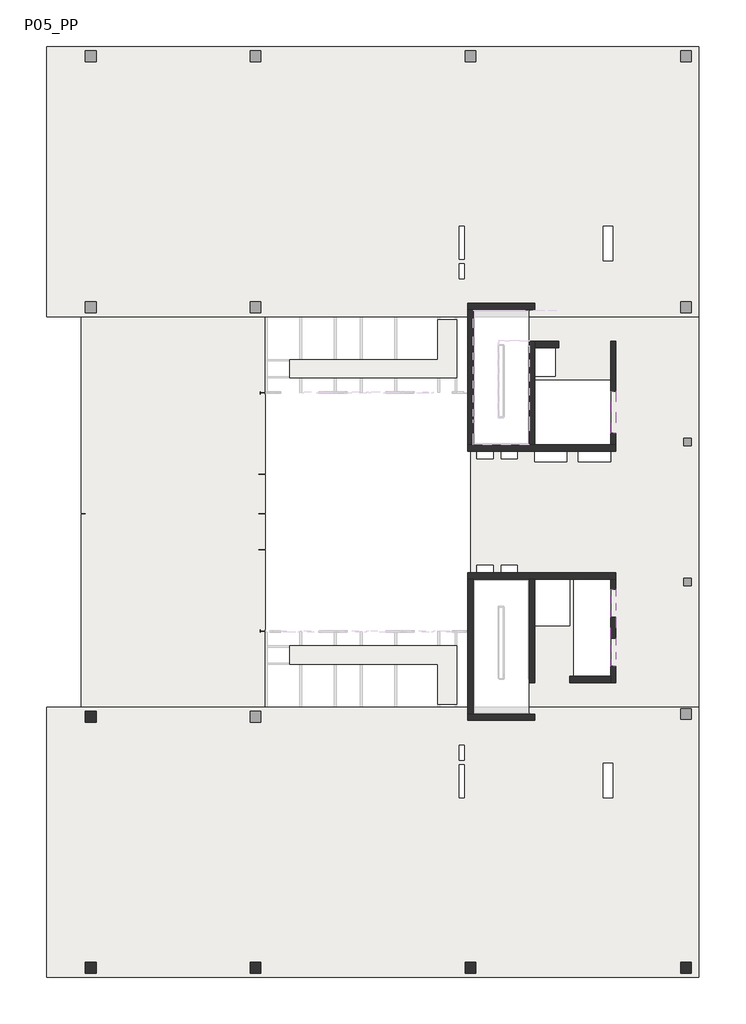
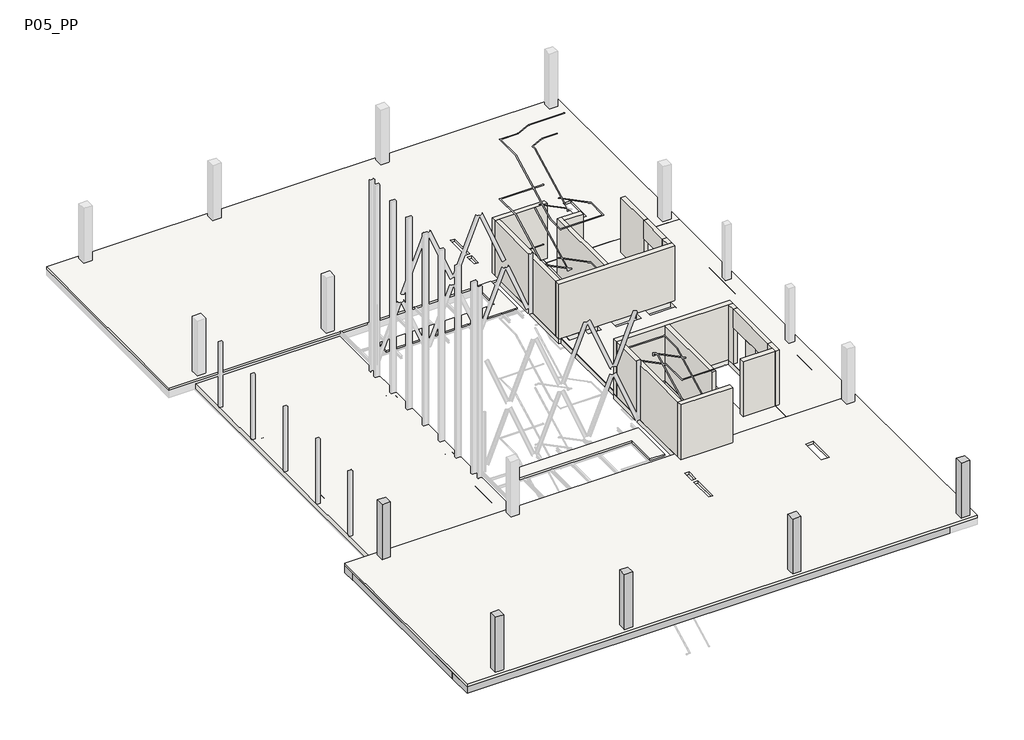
# One storey, part 1 of 7: 17 walls, 13 beams, 5 columns, 5 slabs.
"""IFC4 building model written with IfcOpenShell, lengths in millimetres."""

from ifc_helpers import new_model, si_unit, frame, origin, place, context, project, spatial, polyline, outline, extrude, faceted_brep, element, save

model = new_model("IFC4")

# Units and contexts
model_context = context("Model", 3, world=origin())
ifc_project = project(units=[si_unit("LENGTHUNIT", "METRE", prefix="MILLI")], contexts=[model_context])

# Site, building, storey
site = spatial("IfcSite", under=ifc_project)
building = spatial("IfcBuilding", under=site)
storey = spatial("IfcBuildingStorey", under=building, Name="P05_PP", Elevation=26160.0)

# Beams
placement = place(None, origin())
element("IfcBeam", 1, ObjectType="M_Concrete-Rectangular Beam : 1500 x 550mm", at=placement, inside=storey, context=model_context, shape_type="Brep", body=[
    faceted_brep([(-33190.2931093, -17110.5871866, 25610.0), (-4553.6343046, -17110.5871866, 25610.0), (-4553.6343046, -17110.5871866, 26010.0), (-33190.2931093, -17110.5871866, 26010.0), (-33190.2931093, -15610.5871866, 25610.0), (-32490.2931093, -15610.5871866, 25610.0), (-31216.2708024, -15610.5871866, 25610.0), (-30816.2708024, -15610.5871866, 25610.0), (-29549.6041367, -15610.5871866, 25610.0), (-29149.6041367, -15610.5871866, 25610.0), (-27882.9374731, -15610.5871866, 25610.0), (-27482.9374731, -15610.5871866, 25610.0), (-26216.2708089, -15610.5871866, 25610.0), (-25816.2708089, -15610.5871866, 25610.0), (-24549.6041453, -15610.5871866, 25610.0), (-24149.6041453, -15610.5871866, 25610.0), (-22882.9374805, -15610.5871866, 25610.0), (-22482.9374805, -15610.5871866, 25610.0), (-21216.2708168, -15610.5871866, 25610.0), (-20816.2708168, -15610.5871866, 25610.0), (-19549.6041539, -15610.5871866, 25610.0), (-19149.6041539, -15610.5871866, 25610.0), (-17882.9374898, -15610.5871866, 25610.0), (-17482.9374898, -15610.5871866, 25610.0), (-16216.2708252, -15610.5871866, 25610.0), (-15816.2708252, -15610.5871866, 25610.0), (-14549.604161, -15610.5871866, 25610.0), (-14149.604161, -15610.5871866, 25610.0), (-12882.9374977, -15610.5871866, 25610.0), (-12482.9374977, -15610.5871866, 25610.0), (-11216.2708336, -15610.5871866, 25610.0), (-10816.2708336, -15610.5871866, 25610.0), (-9549.6041702, -15610.5871866, 25610.0), (-9149.6041702, -15610.5871866, 25610.0), (-7882.9375051, -15610.5871866, 25610.0), (-7482.9375051, -15610.5871866, 25610.0), (-6216.2708415, -15610.5871866, 25610.0), (-5816.2708415, -15610.5871866, 25610.0), (-4553.6343046, -15610.5871866, 25610.0), (-13241.2186884, -16910.5863263, 25610.0), (-13241.2186928, -16360.5863263, 25610.0), (-13791.2186928, -16360.5863307, 25610.0), (-13791.2186884, -16910.5863307, 25610.0), (-23241.075288, -16910.6064, 25610.0), (-23241.0752906, -16410.6064, 25610.0), (-23741.0752906, -16410.6064026, 25610.0), (-23741.075288, -16910.6064026, 25610.0), (-30891.2106729, -16910.6072254, 25610.0), (-30891.2106755, -16410.6072254, 25610.0), (-31391.2106755, -16410.607228, 25610.0), (-31391.2106729, -16910.607228, 25610.0), (-33190.2931093, -15610.5871866, 26010.0), (-32490.2931093, -15610.5871866, 26010.0), (-31216.2708024, -15610.5871866, 26010.0), (-30816.2708024, -15610.5871866, 26010.0), (-29549.6041367, -15610.5871866, 26010.0), (-29149.6041367, -15610.5871866, 26010.0), (-27882.9374731, -15610.5871866, 26010.0), (-27482.9374731, -15610.5871866, 26010.0), (-26216.2708089, -15610.5871866, 26010.0), (-25816.2708089, -15610.5871866, 26010.0), (-24549.6041453, -15610.5871866, 26010.0), (-24149.6041453, -15610.5871866, 26010.0), (-22882.9374805, -15610.5871866, 26010.0), (-22482.9374805, -15610.5871866, 26010.0), (-21216.2708168, -15610.5871866, 26010.0), (-20816.2708168, -15610.5871866, 26010.0), (-19549.6041539, -15610.5871866, 26010.0), (-19149.6041539, -15610.5871866, 26010.0), (-17882.9374898, -15610.5871866, 26010.0), (-17482.9374898, -15610.5871866, 26010.0), (-16216.2708252, -15610.5871866, 26010.0), (-15816.2708252, -15610.5871866, 26010.0), (-14549.604161, -15610.5871866, 26010.0), (-14149.604161, -15610.5871866, 26010.0), (-12882.9374977, -15610.5871866, 26010.0), (-12482.9374977, -15610.5871866, 26010.0), (-11216.2708336, -15610.5871866, 26010.0), (-10816.2708336, -15610.5871866, 26010.0), (-9549.6041702, -15610.5871866, 26010.0), (-9149.6041702, -15610.5871866, 26010.0), (-7882.9375051, -15610.5871866, 26010.0), (-7482.9375051, -15610.5871866, 26010.0), (-6216.2708415, -15610.5871866, 26010.0), (-5816.2708415, -15610.5871866, 26010.0), (-4553.6343046, -15610.5871866, 26010.0), (-13241.2186884, -16910.5863263, 25860.0), (-13241.2186928, -16360.5863263, 25860.0), (-13791.2186884, -16910.5863307, 25860.0), (-13791.2186928, -16360.5863307, 25860.0), (-23241.075288, -16910.6064, 25860.0), (-23241.0752906, -16410.6064, 25860.0), (-23741.075288, -16910.6064026, 25860.0), (-23741.0752906, -16410.6064026, 25860.0), (-30891.2106729, -16910.6072254, 25860.0), (-30891.2106755, -16410.6072254, 25860.0), (-31391.2106729, -16910.607228, 25860.0), (-31391.2106755, -16410.607228, 25860.0)], [[[0, 1, 2, 3]], [[0, 4, 5, 6, 7, 8, 9, 10, 11, 12, 13, 14, 15, 16, 17, 18, 19, 20, 21, 22, 23, 24, 25, 26, 27, 28, 29, 30, 31, 32, 33, 34, 35, 36, 37, 38, 1], [39, 40, 41, 42], [43, 44, 45, 46], [47, 48, 49, 50]], [[38, 37, 36, 35, 34, 33, 32, 31, 30, 29, 28, 27, 26, 25, 24, 23, 22, 21, 20, 19, 18, 17, 16, 15, 14, 13, 12, 11, 10, 9, 8, 7, 6, 5, 4, 51, 52, 53, 54, 55, 56, 57, 58, 59, 60, 61, 62, 63, 64, 65, 66, 67, 68, 69, 70, 71, 72, 73, 74, 75, 76, 77, 78, 79, 80, 81, 82, 83, 84, 85]], [[4, 0, 3, 51]], [[1, 38, 85, 2]], [[86, 87, 40, 39]], [[88, 86, 39, 42]], [[89, 88, 42, 41]], [[87, 89, 41, 40]], [[87, 86, 88, 89]], [[90, 91, 44, 43]], [[92, 90, 43, 46]], [[93, 92, 46, 45]], [[91, 93, 45, 44]], [[91, 90, 92, 93]], [[94, 95, 48, 47]], [[96, 94, 47, 50]], [[97, 96, 50, 49]], [[95, 97, 49, 48]], [[95, 94, 96, 97]], [[3, 2, 85, 84, 83, 82, 81, 80, 79, 78, 77, 76, 75, 74, 73, 72, 71, 70, 69, 68, 67, 66, 65, 64, 63, 62, 61, 60, 59, 58, 57, 56, 55, 54, 53, 52, 51]]]),
])
element("IfcBeam", 2, ObjectType="M_Concrete-Rectangular Beam : 400 x 550mm", at=placement, inside=storey, context=model_context, shape_type="SweptSolid", body=[
    extrude(outline(polyline([(-30816.2708024, -15610.5871866), (-31216.2708024, -15610.5871866), (-31216.2708024, -5360.5857933), (-30816.2708024, -5360.5857933), (-30816.2708024, -15610.5871866)])), frame((0.0, 0.0, 25610.0), z_axis=(0.0, 0.0, 1.0), x_axis=(1.0, 0.0, 0.0)), (0.0, 0.0, 1.0), 400.0),
])
element("IfcBeam", 3, ObjectType="M_Concrete-Rectangular Beam : 400 x 550mm", at=placement, inside=storey, context=model_context, shape_type="SweptSolid", body=[
    extrude(outline(polyline([(-29149.6041367, -15610.5871866), (-29549.6041367, -15610.5871866), (-29549.6041367, -5360.5857933), (-29149.6041367, -5360.5857933), (-29149.6041367, -15610.5871866)])), frame((0.0, 0.0, 25610.0), z_axis=(0.0, 0.0, 1.0), x_axis=(1.0, 0.0, 0.0)), (0.0, 0.0, 1.0), 400.0),
])
element("IfcBeam", 4, ObjectType="M_Concrete-Rectangular Beam : 400 x 550mm", at=placement, inside=storey, context=model_context, shape_type="SweptSolid", body=[
    extrude(outline(polyline([(-27482.9374731, -15610.5871866), (-27882.9374731, -15610.5871866), (-27882.9374731, -5360.5857933), (-27482.9374731, -5360.5857933), (-27482.9374731, -15610.5871866)])), frame((0.0, 0.0, 25610.0), z_axis=(0.0, 0.0, 1.0), x_axis=(1.0, 0.0, 0.0)), (0.0, 0.0, 1.0), 400.0),
])
element("IfcBeam", 5, ObjectType="M_Concrete-Rectangular Beam : 400 x 550mm", at=placement, inside=storey, context=model_context, shape_type="SweptSolid", body=[
    extrude(outline(polyline([(-25816.2708089, -15610.5871866), (-26216.2708089, -15610.5871866), (-26216.2708089, -5360.5857933), (-25816.2708089, -5360.5857933), (-25816.2708089, -15610.5871866)])), frame((0.0, 0.0, 25610.0), z_axis=(0.0, 0.0, 1.0), x_axis=(1.0, 0.0, 0.0)), (0.0, 0.0, 1.0), 400.0),
])
element("IfcBeam", 6, ObjectType="M_Concrete-Rectangular Beam : 400 x 550mm", at=placement, inside=storey, context=model_context, shape_type="SweptSolid", body=[
    extrude(outline(polyline([(-24549.6041453, -6060.5861501), (-24149.6041453, -6060.5861501), (-24149.6041453, -15610.5871866), (-24549.6041453, -15610.5871866), (-24549.6041453, -6060.5861501)])), frame((0.0, 0.0, 25610.0), z_axis=(0.0, 0.0, 1.0), x_axis=(1.0, 0.0, 0.0)), (0.0, 0.0, 1.0), 400.0),
])
element("IfcBeam", 7, ObjectType="M_Concrete-Rectangular Beam : 400 x 550mm", at=placement, inside=storey, context=model_context, shape_type="SweptSolid", body=[
    extrude(outline(polyline([(-22882.9374805, -6060.5861501), (-22482.9374805, -6060.5861501), (-22482.9374805, -15610.5871866), (-22882.9374805, -15610.5871866), (-22882.9374805, -6060.5861501)])), frame((0.0, 0.0, 25610.0), z_axis=(0.0, 0.0, 1.0), x_axis=(1.0, 0.0, 0.0)), (0.0, 0.0, 1.0), 400.0),
])
element("IfcBeam", 8, ObjectType="M_Concrete-Rectangular Beam : 400 x 550mm", at=placement, inside=storey, context=model_context, shape_type="SweptSolid", body=[
    extrude(outline(polyline([(-21216.2708168, -6060.5861501), (-20816.2708168, -6060.5861501), (-20816.2708168, -15610.5871866), (-21216.2708168, -15610.5871866), (-21216.2708168, -6060.5861501)])), frame((0.0, 0.0, 25610.0), z_axis=(0.0, 0.0, 1.0), x_axis=(1.0, 0.0, 0.0)), (0.0, 0.0, 1.0), 400.0),
])
element("IfcBeam", 9, ObjectType="M_Concrete-Rectangular Beam : 400 x 550mm", at=placement, inside=storey, context=model_context, shape_type="SweptSolid", body=[
    extrude(outline(polyline([(-19549.6041539, -6060.5861501), (-19149.6041539, -6060.5861501), (-19149.6041539, -15610.5871866), (-19549.6041539, -15610.5871866), (-19549.6041539, -6060.5861501)])), frame((0.0, 0.0, 25610.0), z_axis=(0.0, 0.0, 1.0), x_axis=(1.0, 0.0, 0.0)), (0.0, 0.0, 1.0), 400.0),
])
element("IfcBeam", 10, ObjectType="M_Concrete-Rectangular Beam : 400 x 550mm", at=placement, inside=storey, context=model_context, shape_type="SweptSolid", body=[
    extrude(outline(polyline([(-17882.9374898, -6060.5861501), (-17482.9374898, -6060.5861501), (-17482.9374898, -15610.5871866), (-17882.9374898, -15610.5871866), (-17882.9374898, -6060.5861501)])), frame((0.0, 0.0, 25610.0), z_axis=(0.0, 0.0, 1.0), x_axis=(1.0, 0.0, 0.0)), (0.0, 0.0, 1.0), 400.0),
])
element("IfcBeam", 11, ObjectType="M_Concrete-Rectangular Beam : 400 x 550mm", at=placement, inside=storey, context=model_context, shape_type="SweptSolid", body=[
    extrude(outline(polyline([(-16216.2708252, -6060.5861501), (-15816.2708252, -6060.5861501), (-15816.2708252, -15610.5871866), (-16216.2708252, -15610.5871866), (-16216.2708252, -6060.5861501)])), frame((0.0, 0.0, 25610.0), z_axis=(0.0, 0.0, 1.0), x_axis=(1.0, 0.0, 0.0)), (0.0, 0.0, 1.0), 400.0),
])
element("IfcBeam", 12, ObjectType="M_Concrete-Rectangular Beam : 700 x 550mm", at=placement, inside=storey, context=model_context, shape_type="SweptSolid", body=[
    extrude(outline(polyline([(-32490.2931093, -15610.5871866), (-33190.2931093, -15610.5871866), (-33190.2931093, -5360.5857933), (-32490.2931093, -5360.5857933), (-32490.2931093, -15610.5871866)])), frame((0.0, 0.0, 25610.0), z_axis=(0.0, 0.0, 1.0), x_axis=(1.0, 0.0, 0.0)), (0.0, 0.0, 1.0), 400.0),
])
element("IfcBeam", 13, ObjectType="M_Concrete-Rectangular Beam : 800 x 600mm", at=placement, inside=storey, context=model_context, shape_type="Brep", body=[
    faceted_brep([(-23741.1819308, -5360.5857933, 25610.0), (-24549.6041453, -5360.5857933, 25610.0), (-24549.6041453, -5360.5857933, 26010.0), (-25816.2708089, -5360.5857933, 26010.0), (-26216.2708089, -5360.5857933, 26010.0), (-27482.9374731, -5360.5857933, 26010.0), (-27882.9374731, -5360.5857933, 26010.0), (-29149.6041367, -5360.5857933, 26010.0), (-29549.6041367, -5360.5857933, 26010.0), (-30816.2708024, -5360.5857933, 26010.0), (-31216.2708024, -5360.5857933, 26010.0), (-32490.2931093, -5360.5857933, 26010.0), (-33190.2931093, -5360.5857933, 26010.0), (-33190.2931093, -5360.5857933, 25610.0), (-33190.2931093, -5360.5857933, 25560.0), (-23741.1819308, -5360.5857933, 25560.0), (-33190.2931093, -4560.5857933, 25560.0), (-23741.1819308, -4560.5857933, 25560.0), (-30891.2598275, -5260.6067328, 25560.0), (-30891.2598282, -4760.6067328, 25560.0), (-31391.2598282, -4760.6067335, 25560.0), (-31391.2598275, -5260.6067335, 25560.0), (-23741.1819308, -4560.5857933, 25610.0), (-33190.2931093, -4560.5857933, 26010.0), (-24549.6041453, -4560.5857933, 26010.0), (-24549.6041453, -4560.5857933, 25610.0), (-23741.1819308, -5260.6067305, 25610.0), (-23741.1819308, -4760.6067305, 25610.0), (-30891.2598275, -5260.6067328, 25860.0), (-30891.2598282, -4760.6067328, 25860.0), (-31391.2598275, -5260.6067335, 25860.0), (-31391.2598282, -4760.6067335, 25860.0)], [[[0, 1, 2, 3, 4, 5, 6, 7, 8, 9, 10, 11, 12, 13, 14, 15]], [[14, 16, 17, 15], [18, 19, 20, 21]], [[22, 17, 16, 23, 24, 25]], [[16, 14, 13, 12, 23]], [[25, 1, 0, 26, 27, 22]], [[28, 29, 19, 18]], [[30, 28, 18, 21]], [[31, 30, 21, 20]], [[29, 28, 30, 31]], [[1, 25, 24, 2]], [[17, 22, 27, 26, 0, 15]], [[29, 31, 20, 19]], [[12, 11, 10, 9, 8, 7, 6, 5, 4, 3, 2, 24, 23]]]),
])

# Columns
element("IfcColumn", 14, ObjectType="Concrete-Rectangular-Column : Pilar_Rectangular-Formigo-500x500", at=placement, inside=storey, context=model_context, shape_type="Brep", body=[
    faceted_brep([(-3266.3636507, -16410.4373098, 26160.0), (-3266.3636558, -16910.4373098, 26160.0), (-3766.3636558, -16910.4373046, 26160.0), (-3766.3636507, -16410.4373046, 26160.0), (-3266.3636507, -16410.4373098, 29610.0), (-3266.3636558, -16910.4373098, 29610.0), (-3266.3636558, -16910.4373098, 29360.0), (-3266.3636507, -16410.4373098, 29360.0), (-3766.3636558, -16910.4373046, 29610.0), (-3766.3636558, -16910.4373046, 29360.0), (-3766.3636507, -16410.4373046, 29610.0), (-3766.3636507, -16410.4373046, 29360.0)], [[[0, 1, 2, 3]], [[4, 5, 6, 1, 0, 7]], [[5, 8, 9, 2, 1, 6]], [[8, 10, 11, 3, 2, 9]], [[10, 4, 7, 0, 3, 11]], [[4, 10, 8, 5]]]),
])
element("IfcColumn", 15, ObjectType="Concrete-Rectangular-Column : Pilar_Rectangular-Formigo-500x500", at=placement, inside=storey, context=model_context, shape_type="Brep", body=[
    faceted_brep([(-13265.9144455, -16410.4373111, 26160.0), (-13265.9144385, -16910.4373111, 26160.0), (-13765.9144385, -16910.4373181, 26160.0), (-13765.9144455, -16410.4373181, 26160.0), (-13265.9144455, -16410.4373111, 29610.0), (-13265.9144385, -16910.4373111, 29610.0), (-13265.9144385, -16910.4373111, 29360.0), (-13265.9144455, -16410.4373111, 29360.0), (-13765.9144385, -16910.4373181, 29610.0), (-13765.9144385, -16910.4373181, 29360.0), (-13765.9144455, -16410.4373181, 29610.0), (-13765.9144455, -16410.4373181, 29360.0)], [[[0, 1, 2, 3]], [[4, 5, 6, 1, 0, 7]], [[5, 8, 9, 2, 1, 6]], [[8, 10, 11, 3, 2, 9]], [[10, 4, 7, 0, 3, 11]], [[4, 10, 8, 5]]]),
])
element("IfcColumn", 16, ObjectType="Concrete-Rectangular-Column : Pilar_Rectangular-Formigo-500x500", at=placement, inside=storey, context=model_context, shape_type="Brep", body=[
    faceted_brep([(-23240.7710406, -16410.4370227, 26160.0), (-23240.7710375, -16910.4370227, 26160.0), (-23740.7710375, -16910.4370258, 26160.0), (-23740.7710406, -16410.4370258, 26160.0), (-23240.7710406, -16410.4370227, 29610.0), (-23240.7710375, -16910.4370227, 29610.0), (-23240.7710375, -16910.4370227, 29360.0), (-23240.7710406, -16410.4370227, 29360.0), (-23740.7710375, -16910.4370258, 29610.0), (-23740.7710375, -16910.4370258, 29360.0), (-23740.7710406, -16410.4370258, 29610.0), (-23740.7710406, -16410.4370258, 29360.0)], [[[0, 1, 2, 3]], [[4, 5, 6, 1, 0, 7]], [[5, 8, 9, 2, 1, 6]], [[8, 10, 11, 3, 2, 9]], [[10, 4, 7, 0, 3, 11]], [[4, 10, 8, 5]]]),
])
element("IfcColumn", 17, ObjectType="Concrete-Rectangular-Column : Pilar_Rectangular-Formigo-500x500", at=placement, inside=storey, context=model_context, shape_type="Brep", body=[
    faceted_brep([(-30890.9064256, -16410.4378471, 26160.0), (-30890.9064219, -16910.4378471, 26160.0), (-31390.9064219, -16910.4378508, 26160.0), (-31390.9064256, -16410.4378508, 26160.0), (-30890.9064256, -16410.4378471, 29610.0), (-30890.9064219, -16910.4378471, 29610.0), (-30890.9064219, -16910.4378471, 29360.0), (-30890.9064256, -16410.4378471, 29360.0), (-31390.9064219, -16910.4378508, 29610.0), (-31390.9064219, -16910.4378508, 29360.0), (-31390.9064256, -16410.4378508, 29610.0), (-31390.9064256, -16410.4378508, 29360.0)], [[[0, 1, 2, 3]], [[4, 5, 6, 1, 0, 7]], [[5, 8, 9, 2, 1, 6]], [[8, 10, 11, 3, 2, 9]], [[10, 4, 7, 0, 3, 11]], [[4, 10, 8, 5]]]),
])
element("IfcColumn", 18, ObjectType="Concrete-Rectangular-Column : Pilar_Rectangular-Formigo-500x500", at=placement, inside=storey, context=model_context, shape_type="Brep", body=[
    faceted_brep([(-30890.9555797, -4760.4373566, 26160.0), (-30890.9555801, -5260.4373566, 26160.0), (-31390.9555801, -5260.4373562, 26160.0), (-31390.9555797, -4760.4373562, 26160.0), (-30890.9555797, -4760.4373566, 29610.0), (-30890.9555801, -5260.4373566, 29610.0), (-30890.9555801, -5260.4373566, 29360.0), (-30890.9555797, -4760.4373566, 29360.0), (-31390.9555801, -5260.4373562, 29610.0), (-31390.9555801, -5260.4373562, 29360.0), (-31390.9555797, -4760.4373562, 29610.0), (-31390.9555797, -4760.4373562, 29360.0)], [[[0, 1, 2, 3]], [[4, 5, 6, 1, 0, 7]], [[5, 8, 9, 2, 1, 6]], [[8, 10, 11, 3, 2, 9]], [[10, 4, 7, 0, 3, 11]], [[4, 10, 8, 5]]]),
])

# Slabs
element("IfcSlab", 19, ObjectType="Forjat_Llosa-Formigo-300", at=placement, inside=storey, context=model_context, shape_type="SweptSolid", body=[
    extrude(outline(polyline([(-2913.3917281, 13539.4138015), (-2913.3917281, -4560.5857971), (-10790.2146087, -4560.5857971), (-10790.2146087, 1364.8960692), (-13390.3216429, 1364.8960692), (-13390.3216429, -4560.5857971), (-13640.3216429, -4560.5857971), (-13640.3216429, 1664.8960692), (-13515.3216429, 1664.8960692), (-13515.3216412, 7314.8960673), (-13640.3216429, 7314.8960673), (-13640.3216429, 13539.4138015), (-13390.3216429, 13539.4138015), (-13390.3216429, 7614.8960673), (-10790.2146087, 7614.8960673), (-10790.2146087, 13539.4138015), (-2913.3917281, 13539.4138015)]), holes=[polyline([(-8915.3273673, -795.1004405), (-8915.3273673, 1364.8960692), (-10540.2146087, 1364.8960692), (-10540.2146087, -795.1004405), (-8915.3273673, -795.1004405)]), polyline([(-7015.32737, -3135.1012912), (-7015.32737, 1364.8960692), (-8715.3273692, 1364.8960692), (-8715.3273692, -3135.1012912), (-7015.32737, -3135.1012912)]), polyline([(-7015.3216444, 10594.8839421), (-10540.2146087, 10594.8839421), (-10540.2146087, 7614.8960673), (-7015.3216444, 7614.8960673), (-7015.3216444, 10594.8839421)]), polyline([(-9575.3241515, 12114.8934277), (-10540.2146087, 12114.8934277), (-10540.2146087, 10794.8973525), (-9575.3241515, 10794.8973525), (-9575.3241515, 12114.8934277)]), polyline([(-12465.3183759, 6964.8891848), (-12465.3183704, 7314.8960673), (-13215.3183723, 7314.8960673), (-13215.3183768, 6964.8891841), (-12465.3183759, 6964.8891848)]), polyline([(-12090.3183694, 6964.8891882), (-11340.3183722, 6964.8891882), (-11340.3183685, 7314.8960673), (-12090.3183704, 7314.8960673), (-12090.3183694, 6964.8891882)]), polyline([(-12465.317339, 2014.8973051), (-13215.3183744, 2014.8973051), (-13215.3183744, 1664.8968204), (-12465.317339, 1664.8968204), (-12465.317339, 2014.8973051)]), polyline([(-11340.3173363, 2014.8973051), (-12090.3183821, 2014.8973051), (-12090.3183821, 1664.8968204), (-11340.3173363, 1664.8968204), (-11340.3173363, 2014.8973051)]), polyline([(-9040.3216312, 7314.8929869), (-10540.3361965, 7314.8929869), (-10540.3361965, 6814.888132), (-9040.3216312, 6814.888132), (-9040.3216312, 7314.8929869)]), polyline([(-7015.3241584, 7314.892988), (-8515.3387237, 7314.892988), (-8515.3387237, 6814.888133), (-7015.3241584, 6814.888133), (-7015.3241584, 7314.892988)])]), frame((0.0, 0.0, 25860.0), z_axis=(0.0, 0.0, 1.0), x_axis=(1.0, 0.0, 0.0)), (0.0, 0.0, 1.0), 300.0),
])
element("IfcSlab", 20, ObjectType="Forjat_Llosa-Formigo-300", at=placement, inside=storey, context=model_context, shape_type="SweptSolid", body=[
    extrude(outline(polyline([(-31591.2255813, -4560.586045), (-31591.2256169, 13539.4138221), (-23041.1835009, 13539.4138389), (-23041.1835037, -4560.5860282), (-31591.2255813, -4560.586045)])), frame((0.0, 0.0, 25560.0), z_axis=(0.0, 0.0, 1.0), x_axis=(1.0, 0.0, 0.0)), (0.0, 0.0, 1.0), 300.0),
])
element("IfcSlab", 21, ObjectType="Forjat_Llosa-Formigo-150", at=placement, inside=storey, context=model_context, shape_type="Brep", body=[
    faceted_brep([(-33190.2931069, 13539.4137942, 26010.0), (-33190.2931069, 26089.4138015, 26010.0), (-2913.6636999, 26089.4138015, 26010.0), (-2913.6636999, 13539.4137942, 26010.0), (-10790.2146087, 13539.4137942, 26010.0), (-10790.2146087, 13864.8960677, 26010.0), (-13390.3216429, 13864.8960677, 26010.0), (-13390.3216429, 13539.4137942, 26010.0), (-23041.1834977, 13539.4137942, 26010.0), (-7355.3596943, 17755.5003122, 26010.0), (-7355.3596935, 16143.9281337, 26010.0), (-6905.3202486, 16143.9281335, 26010.0), (-6905.3202496, 17755.5003116, 26010.0), (-13795.316559, 16015.6292353, 26010.0), (-14045.3165543, 16015.6292358, 26010.0), (-14045.3165545, 15315.6292377, 26010.0), (-13795.3165589, 15315.629238, 26010.0), (-13795.3165592, 17754.0479176, 26010.0), (-14045.3165588, 17754.0479187, 26010.0), (-14045.3165585, 16215.6292373, 26010.0), (-13795.316559, 16215.629237, 26010.0), (-33190.2931069, 26089.4138015, 26160.0), (-33190.2931069, 13539.4137942, 26160.0), (-13390.3216429, 13539.4137942, 26160.0), (-13390.3216429, 13864.8960677, 26160.0), (-10790.2146087, 13864.8960677, 26160.0), (-10790.2146087, 13539.4137942, 26160.0), (-7015.3241677, 13539.4137942, 26160.0), (-6715.3241677, 13539.4137942, 26160.0), (-3763.6343046, 13539.4137942, 26160.0), (-2913.6636999, 13539.4137942, 26160.0), (-2913.6636999, 26089.4138015, 26160.0), (-7355.3596935, 16143.9281337, 26160.0), (-7355.3596943, 17755.5003122, 26160.0), (-6905.3202496, 17755.5003116, 26160.0), (-6905.3202486, 16143.9281335, 26160.0), (-14045.3165543, 16015.6292358, 26160.0), (-13795.316559, 16015.6292353, 26160.0), (-13795.3165589, 15315.629238, 26160.0), (-14045.3165545, 15315.6292377, 26160.0), (-14045.3165588, 17754.0479187, 26160.0), (-13795.3165592, 17754.0479176, 26160.0), (-13795.316559, 16215.629237, 26160.0), (-14045.3165585, 16215.6292373, 26160.0)], [[[0, 1, 2, 3, 4, 5, 6, 7, 8], [9, 10, 11, 12], [13, 14, 15, 16], [17, 18, 19, 20]], [[21, 22, 23, 24, 25, 26, 27, 28, 29, 30, 31], [32, 33, 34, 35], [36, 37, 38, 39], [40, 41, 42, 43]], [[22, 0, 8, 7, 23]], [[3, 30, 29, 28, 27, 26, 4]], [[1, 0, 22, 21]], [[2, 1, 21, 31]], [[3, 2, 31, 30]], [[5, 25, 24, 6]], [[6, 24, 23, 7]], [[25, 5, 4, 26]], [[9, 33, 32, 10]], [[10, 32, 35, 11]], [[11, 35, 34, 12]], [[33, 9, 12, 34]], [[13, 37, 36, 14]], [[14, 36, 39, 15]], [[15, 39, 38, 16]], [[37, 13, 16, 38]], [[17, 41, 40, 18]], [[18, 40, 43, 19]], [[19, 43, 42, 20]], [[41, 17, 20, 42]]]),
    faceted_brep([(-33190.2931093, -17110.5868311, 26010.0), (-33190.2931093, -15610.5871866, 26010.0), (-33190.2931093, -5360.5857933, 26010.0), (-33190.2931093, -4560.5857933, 26010.0), (-24549.6041453, -4560.5857933, 26010.0), (-13390.3216429, -4560.5857933, 26010.0), (-13390.3216429, -4885.1039312, 26010.0), (-10790.2146087, -4885.1039312, 26010.0), (-10790.2146087, -4560.5857933, 26010.0), (-2913.6636999, -4560.5857933, 26010.0), (-2913.6636999, -17110.5868311, 26010.0), (-7355.3596943, -8775.7081757, 26010.0), (-6905.3202496, -8775.7081751, 26010.0), (-6905.3202486, -7164.135997, 26010.0), (-7355.3596935, -7164.1359972, 26010.0), (-13795.316559, -7035.8370988, 26010.0), (-13795.3165589, -6335.8371015, 26010.0), (-14045.3165545, -6335.8371012, 26010.0), (-14045.3165543, -7035.8370994, 26010.0), (-13795.3165592, -8774.2557811, 26010.0), (-13795.316559, -7235.8371005, 26010.0), (-14045.3165585, -7235.8371008, 26010.0), (-14045.3165588, -8774.2557822, 26010.0), (-33190.2931093, -4560.5857933, 26160.0), (-33190.2931093, -17110.5868311, 26160.0), (-2913.6636999, -17110.5868311, 26160.0), (-2913.6636999, -4560.5857933, 26160.0), (-3763.6343046, -4560.5857933, 26160.0), (-6715.3241677, -4560.5857933, 26160.0), (-7015.3241677, -4560.5857933, 26160.0), (-10790.2146087, -4560.5857933, 26160.0), (-10790.2146087, -4885.1039312, 26160.0), (-13390.3216429, -4885.1039312, 26160.0), (-13390.3216429, -4560.5857933, 26160.0), (-6905.3202496, -8775.7081751, 26160.0), (-7355.3596943, -8775.7081757, 26160.0), (-7355.3596935, -7164.1359972, 26160.0), (-6905.3202486, -7164.135997, 26160.0), (-13795.3165589, -6335.8371015, 26160.0), (-13795.316559, -7035.8370988, 26160.0), (-14045.3165543, -7035.8370994, 26160.0), (-14045.3165545, -6335.8371012, 26160.0), (-13795.316559, -7235.8371005, 26160.0), (-13795.3165592, -8774.2557811, 26160.0), (-14045.3165588, -8774.2557822, 26160.0), (-14045.3165585, -7235.8371008, 26160.0)], [[[0, 1, 2, 3, 4, 5, 6, 7, 8, 9, 10], [11, 12, 13, 14], [15, 16, 17, 18], [19, 20, 21, 22]], [[23, 24, 25, 26, 27, 28, 29, 30, 31, 32, 33], [34, 35, 36, 37], [38, 39, 40, 41], [42, 43, 44, 45]], [[3, 2, 1, 0, 24, 23]], [[3, 23, 33, 5, 4]], [[26, 9, 8, 30, 29, 28, 27]], [[10, 9, 26, 25]], [[0, 10, 25, 24]], [[7, 31, 30, 8]], [[32, 6, 5, 33]], [[31, 7, 6, 32]], [[11, 35, 34, 12]], [[12, 34, 37, 13]], [[13, 37, 36, 14]], [[35, 11, 14, 36]], [[15, 39, 38, 16]], [[16, 38, 41, 17]], [[17, 41, 40, 18]], [[39, 15, 18, 40]], [[19, 43, 42, 20]], [[20, 42, 45, 21]], [[21, 45, 44, 22]], [[43, 19, 22, 44]]]),
])
element("IfcSlab", 22, ObjectType="Forjat_Llosa-Relliga-100", at=placement, inside=storey, context=model_context, shape_type="SweptSolid", body=[
    extrude(outline(polyline([(-21915.4459309, -2583.0874625), (-21915.4459314, -1728.0871839), (-14149.4459331, -1728.0871839), (-14149.4459331, -4439.621344), (-15031.4459326, -4439.621344), (-15031.4459326, -2583.0874625), (-21915.4459309, -2583.0874625)])), frame((0.0, 0.0, 26160.0), z_axis=(0.0, 0.0, 1.0), x_axis=(1.0, 0.0, 0.0)), (0.0, 0.0, 1.0), 100.0),
])
element("IfcSlab", 23, ObjectType="Forjat_Llosa-Relliga-100", at=placement, inside=storey, context=model_context, shape_type="SweptSolid", body=[
    extrude(outline(polyline([(-21915.4459309, 11562.8793206), (-15031.4459326, 11562.8793206), (-15031.4459326, 13419.4132021), (-14149.4459331, 13419.4132021), (-14149.4459331, 10707.879042), (-21915.4459314, 10707.879042), (-21915.4459309, 11562.8793206)])), frame((0.0, 0.0, 26160.0), z_axis=(0.0, 0.0, 1.0), x_axis=(1.0, 0.0, 0.0)), (0.0, 0.0, 1.0), 100.0),
])

# Walls
element("IfcWall", 24, ObjectType="0_Muro Concreto_250", at=placement, inside=storey, context=model_context, shape_type="Brep", body=[
    faceted_brep([(-13640.3216429, 13864.8960687, 26160.0), (-13640.3216429, 7614.8960673, 26160.0), (-13640.3216429, 7614.8960673, 29609.9777344), (-13640.3216429, 13539.4134441, 29609.9777344), (-13640.3216429, 13864.8960687, 29609.9777344), (-13390.3216429, 13864.8960687, 26160.0), (-13390.3216429, 13864.8960687, 29360.0), (-13390.3216429, 13864.8960687, 29609.9777344), (-13390.3216429, 13539.4134441, 29609.9777344), (-13390.3216429, 7614.8960673, 29609.9777344), (-13390.3216429, 7614.8960673, 26160.0)], [[[0, 1, 2, 3, 4]], [[5, 6, 7, 8, 9, 10]], [[1, 0, 5, 10]], [[4, 3, 2, 9, 8, 7]], [[0, 4, 7, 6, 5]], [[2, 1, 10, 9]]]),
])
element("IfcWall", 25, ObjectType="0_Muro Concreto_250", at=placement, inside=storey, context=model_context, shape_type="Brep", body=[
    faceted_brep([(-10790.2146087, 12414.8934136, 26160.0), (-10790.2146087, 7614.8960673, 26160.0), (-10790.2146087, 7614.8960673, 29609.9777344), (-10790.2146087, 12414.8934136, 29609.9777344), (-10540.2146087, 12414.8934136, 26160.0), (-10540.2146087, 12414.8934136, 29609.9777344), (-10540.2146087, 12114.8934136, 29609.9777344), (-10540.2146087, 7614.8960673, 29609.9777344), (-10540.2146087, 7614.8960673, 26160.0), (-10540.2146087, 12114.8934136, 26160.0)], [[[0, 1, 2, 3]], [[4, 5, 6, 7, 8, 9]], [[1, 0, 4, 9, 8]], [[3, 2, 7, 6, 5]], [[0, 3, 5, 4]], [[2, 1, 8, 7]]]),
])
element("IfcWall", 26, ObjectType="0_Muro Concreto_250", at=placement, inside=storey, context=model_context, shape_type="Brep", body=[
    faceted_brep([(-13390.3216429, -4885.1039323, 26160.0), (-13390.3216429, 1364.8960692, 26160.0), (-13390.3216429, 1364.8960692, 29609.9777344), (-13390.3216429, -4560.5861501, 29609.9777344), (-13390.3216429, -4885.1039323, 29609.9777344), (-13390.3216429, -4885.1039323, 29360.0), (-13640.3216429, -4885.1039323, 26160.0), (-13640.3216429, -4885.1039323, 29609.9777344), (-13640.3216429, -4560.5861501, 29609.9777344), (-13640.3216429, 1364.8960692, 29609.9777344), (-13640.3216429, 1364.8960692, 26160.0)], [[[0, 1, 2, 3, 4, 5]], [[6, 7, 8, 9, 10]], [[1, 0, 6, 10]], [[4, 3, 2, 9, 8, 7]], [[0, 5, 4, 7, 6]], [[2, 1, 10, 9]]]),
])
element("IfcWall", 27, ObjectType="0_Muro Concreto_250", at=placement, inside=storey, context=model_context, shape_type="SweptSolid", body=[
    extrude(outline(polyline([(-10540.2146087, 1364.8960692), (-10540.2146087, -3435.1012772), (-10790.2146087, -3435.1012772), (-10790.2146087, 1364.8960692), (-10540.2146087, 1364.8960692)])), frame((0.0, 0.0, 26160.0), z_axis=(0.0, 0.0, 1.0), x_axis=(1.0, 0.0, 0.0)), (0.0, 0.0, 1.0), 3449.9777344),
])
element("IfcWall", 28, ObjectType="0_Muro Concreto_250", at=placement, inside=storey, context=model_context, shape_type="Brep", body=[
    faceted_brep([(-7015.3215886, 12414.8934351, 26160.0), (-7015.3215909, 10084.2914836, 26160.0), (-7015.3215909, 10084.2914836, 28460.0), (-7015.3215909, 10084.2914836, 29609.9777344), (-7015.3215886, 12414.8934351, 29609.9777344), (-6765.3215886, 12414.8934349, 26160.0), (-6765.3215886, 12414.8934349, 29609.9777344), (-6765.3215909, 10084.2914833, 29609.9777344), (-6765.3215909, 10084.2914833, 28460.0), (-6765.3215909, 10084.2914833, 26160.0)], [[[0, 1, 2, 3, 4]], [[5, 6, 7, 8, 9]], [[1, 0, 5, 9]], [[3, 2, 1, 9, 8, 7]], [[4, 3, 7, 6]], [[0, 4, 6, 5]]]),
])
element("IfcWall", 29, ObjectType="0_Muro Concreto_250", at=placement, inside=storey, context=model_context, shape_type="SweptSolid", body=[
    extrude(outline(polyline([(-7015.3216444, 7614.8960673), (-7015.3216444, 8144.2911718), (-6765.3216444, 8144.2911718), (-6765.3216444, 7614.8960673), (-7015.3216444, 7614.8960673)])), frame((0.0, 0.0, 26160.0), z_axis=(0.0, 0.0, 1.0), x_axis=(1.0, 0.0, 0.0)), (0.0, 0.0, 1.0), 3449.9777344),
])
element("IfcWall", 30, ObjectType="0_Muro Concreto_250", at=placement, inside=storey, context=model_context, shape_type="SweptSolid", body=[
    extrude(outline(polyline([(-6765.3247837, -405.0894087), (-6765.3247837, -1365.1031796), (-7015.3247837, -1365.1031796), (-7015.3247837, -405.0894087), (-6765.3247837, -405.0894087)])), frame((0.0, 0.0, 26160.0), z_axis=(0.0, 0.0, 1.0), x_axis=(1.0, 0.0, 0.0)), (0.0, 0.0, 1.0), 2300.0),
])
element("IfcWall", 31, ObjectType="0_Muro Concreto_250", at=placement, inside=storey, context=model_context, shape_type="SweptSolid", body=[
    extrude(outline(polyline([(-6765.3216444, 1364.8960692), (-6765.3247835, 894.9105912), (-7015.3247835, 894.912261), (-7015.3216444, 1364.897739), (-6765.3216444, 1364.8960692)])), frame((0.0, 0.0, 26160.0), z_axis=(0.0, 0.0, 1.0), x_axis=(1.0, 0.0, 0.0)), (0.0, 0.0, 1.0), 3449.9777344),
])
element("IfcWall", 32, ObjectType="0_Muro Concreto_250", at=placement, inside=storey, context=model_context, shape_type="Brep", body=[
    faceted_brep([(-6765.3247845, -3435.1012772, 26160.0), (-6765.3247845, -2665.1031808, 26160.0), (-6765.3247845, -2665.1031808, 28460.0), (-6765.3247845, -2665.1031808, 29609.9777344), (-6765.3247845, -3435.1012772, 29609.9777344), (-7015.3247845, -3435.1012772, 26160.0), (-7015.3247845, -3435.1012772, 29609.9777344), (-7015.3247845, -3135.1012772, 29609.9777344), (-7015.3247845, -2665.1031808, 29609.9777344), (-7015.3247845, -2665.1031808, 28460.0), (-7015.3247845, -2665.1031808, 26160.0), (-7015.3247845, -3135.1012772, 26160.0)], [[[0, 1, 2, 3, 4]], [[5, 6, 7, 8, 9, 10, 11]], [[1, 0, 5, 11, 10]], [[3, 2, 1, 10, 9, 8]], [[4, 3, 8, 7, 6]], [[0, 4, 6, 5]]]),
])
element("IfcWall", 33, ObjectType="0_Muro Concreto_250", at=placement, inside=storey, context=model_context, shape_type="Brep", body=[
    faceted_brep([(-6765.3247835, -2665.1031808, 28460.0), (-6765.3247835, -1365.1031796, 28460.0), (-6765.3247835, -405.0894087, 28460.0), (-6765.3247835, 894.9114261, 28460.0), (-6765.3247835, 894.9114261, 29610.0), (-6765.3247835, -2665.1031808, 29610.0), (-7015.3247835, -2665.1031808, 28460.0), (-7015.3247835, -2665.1031808, 29610.0), (-7015.3247835, 894.9114261, 29610.0), (-7015.3247835, 894.9114261, 28460.0), (-7015.3247835, -405.0894087, 28460.0), (-7015.3247835, -1365.1031796, 28460.0)], [[[0, 1, 2, 3, 4, 5]], [[6, 7, 8, 9, 10, 11]], [[3, 2, 1, 0, 6, 11, 10, 9]], [[4, 3, 9, 8]], [[5, 4, 8, 7]], [[0, 5, 7, 6]]]),
])
element("IfcWall", 34, ObjectType="0_Muro Concreto_250", at=placement, inside=storey, context=model_context, shape_type="SweptSolid", body=[
    extrude(outline(polyline([(-7015.3216444, 8144.2911719), (-7015.3216444, 10084.2914835), (-6765.3216444, 10084.2914835), (-6765.3216444, 8144.2911719), (-7015.3216444, 8144.2911719)])), frame((0.0, 0.0, 28460.0), z_axis=(0.0, 0.0, 1.0), x_axis=(1.0, 0.0, 0.0)), (0.0, 0.0, 1.0), 1150.0),
])
element("IfcWall", 35, ObjectType="0_Muro Concreto_300", at=placement, inside=storey, context=model_context, shape_type="Brep", body=[
    faceted_brep([(-6768.0437821, 7614.8960673, 26160.0), (-10540.2146087, 7614.8960673, 26160.0), (-10790.2146087, 7614.8960673, 26160.0), (-13390.3216429, 7614.8960673, 26160.0), (-13640.3216429, 7614.8960673, 26160.0), (-13640.3216429, 7614.8960673, 29609.9777344), (-13390.3216429, 7614.8960673, 29609.9777344), (-10790.2146087, 7614.8960673, 29609.9777344), (-10540.2146087, 7614.8960673, 29609.9777344), (-6768.0437821, 7614.8960673, 29609.9777344), (-6768.0437821, 7314.8960673, 26160.0), (-6768.0437821, 7314.8960673, 29609.9777344), (-13640.3216429, 7314.8960673, 29609.9777344), (-13640.3216429, 7314.8960673, 26160.0)], [[[0, 1, 2, 3, 4, 5, 6, 7, 8, 9]], [[10, 11, 12, 13]], [[4, 3, 2, 1, 0, 10, 13]], [[9, 8, 7, 6, 5, 12, 11]], [[0, 9, 11, 10]], [[5, 4, 13, 12]]]),
])
element("IfcWall", 36, ObjectType="0_Muro Concreto_300", at=placement, inside=storey, context=model_context, shape_type="Brep", body=[
    faceted_brep([(-10540.3248355, 14164.8960687, 26160.0), (-13640.3216429, 14164.8960687, 26160.0), (-13640.3216429, 14164.8960687, 29360.0), (-13640.3216429, 14164.8960687, 29609.9777344), (-10540.3248355, 14164.8960687, 29609.9777344), (-10540.3248355, 14164.8960687, 29360.0), (-10540.3248355, 13864.8960687, 26160.0), (-10540.3248355, 13864.8960687, 29360.0), (-10540.3248355, 13864.8960687, 29609.9777344), (-13390.3216429, 13864.8960687, 29609.9777344), (-13640.3216429, 13864.8960687, 29609.9777344), (-13640.3216429, 13864.8960687, 26160.0), (-13390.3216429, 13864.8960687, 26160.0)], [[[0, 1, 2, 3, 4, 5]], [[6, 7, 8, 9, 10, 11, 12]], [[1, 0, 6, 12, 11]], [[4, 3, 10, 9, 8]], [[0, 5, 4, 8, 7, 6]], [[3, 2, 1, 11, 10]]]),
])
element("IfcWall", 37, ObjectType="0_Muro Concreto_300", at=placement, inside=storey, context=model_context, shape_type="SweptSolid", body=[
    extrude(outline(polyline([(-9415.5635412, 12114.8934136), (-10540.2146087, 12114.8934136), (-10540.2146087, 12414.8934136), (-9415.5635412, 12414.8934136), (-9415.5635412, 12114.8934136)])), frame((0.0, 0.0, 26160.0), z_axis=(0.0, 0.0, 1.0), x_axis=(1.0, 0.0, 0.0)), (0.0, 0.0, 1.0), 3449.9777344),
])
element("IfcWall", 38, ObjectType="0_Muro Concreto_300", at=placement, inside=storey, context=model_context, shape_type="Brep", body=[
    faceted_brep([(-6768.0437821, 1664.8960692, 26160.0), (-13640.3216429, 1664.8960692, 26160.0), (-13640.3216429, 1664.8960692, 29609.9777344), (-6768.0437821, 1664.8960692, 29609.9777344), (-6768.0437821, 1364.8960692, 26160.0), (-6768.0437821, 1364.8960692, 29609.9777344), (-10540.2146087, 1364.8960692, 29609.9777344), (-10790.2146087, 1364.8960692, 29609.9777344), (-13390.3216429, 1364.8960692, 29609.9777344), (-13640.3216429, 1364.8960692, 29609.9777344), (-13640.3216429, 1364.8960692, 26160.0), (-13390.3216429, 1364.8960692, 26160.0), (-10790.2146087, 1364.8960692, 26160.0), (-10540.2146087, 1364.8960692, 26160.0)], [[[0, 1, 2, 3]], [[4, 5, 6, 7, 8, 9, 10, 11, 12, 13]], [[1, 0, 4, 13, 12, 11, 10]], [[3, 2, 9, 8, 7, 6, 5]], [[0, 3, 5, 4]], [[2, 1, 10, 9]]]),
])
element("IfcWall", 39, ObjectType="0_Muro Concreto_300", at=placement, inside=storey, context=model_context, shape_type="Brep", body=[
    faceted_brep([(-10540.3248425, -4885.1039323, 26160.0), (-13390.3216429, -4885.1039323, 26160.0), (-13640.3216429, -4885.1039323, 26160.0), (-13640.3216429, -4885.1039323, 29609.9777344), (-13390.3216429, -4885.1039323, 29609.9777344), (-10540.3248425, -4885.1039323, 29609.9777344), (-10540.3248425, -4885.1039323, 29360.0), (-10540.3248425, -5185.1039323, 26160.0), (-10540.3248425, -5185.1039323, 29360.0), (-10540.3248425, -5185.1039323, 29609.9777344), (-13640.3216429, -5185.1039323, 29609.9777344), (-13640.3216429, -5185.1039323, 29360.0), (-13640.3216429, -5185.1039323, 26160.0)], [[[0, 1, 2, 3, 4, 5, 6]], [[7, 8, 9, 10, 11, 12]], [[2, 1, 0, 7, 12]], [[5, 4, 3, 10, 9]], [[0, 6, 5, 9, 8, 7]], [[3, 2, 12, 11, 10]]]),
])
element("IfcWall", 40, ObjectType="0_Muro Concreto_300", at=placement, inside=storey, context=model_context, shape_type="SweptSolid", body=[
    extrude(outline(polyline([(-7015.3247845, -3435.1012772), (-8915.3273666, -3435.1012772), (-8915.3273666, -3135.1012772), (-7015.3247845, -3135.1012772), (-7015.3247845, -3435.1012772)])), frame((0.0, 0.0, 26160.0), z_axis=(0.0, 0.0, 1.0), x_axis=(1.0, 0.0, 0.0)), (0.0, 0.0, 1.0), 3449.9777344),
])

save(model, "model.ifc")
